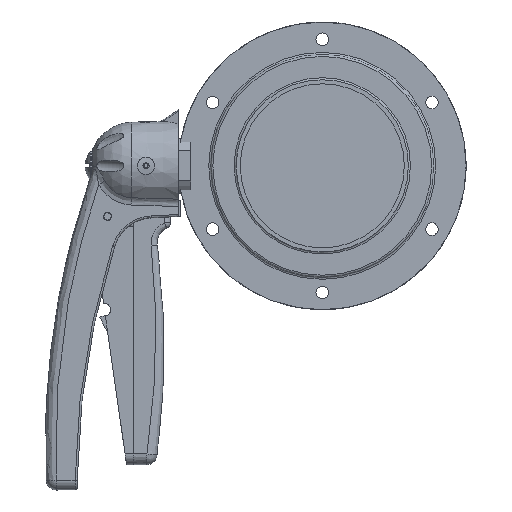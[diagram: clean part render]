
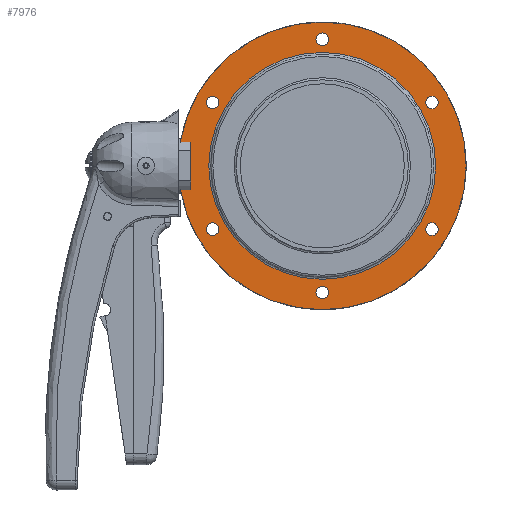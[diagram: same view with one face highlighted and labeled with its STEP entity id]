
A CAD part, left-side view. The second image highlights one B-rep face of the part: STEP entity #7976.
In plain terms, the highlighted planar face has unit normal (-1, 0, 0) as drawn and (1, 0, 0) by its records, which use the part's own axes.
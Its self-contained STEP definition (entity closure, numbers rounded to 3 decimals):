
#1995=FACE_BOUND('',#2885,.T.);
#1996=FACE_BOUND('',#2886,.T.);
#1997=FACE_BOUND('',#2887,.T.);
#1998=FACE_BOUND('',#2888,.T.);
#1999=FACE_BOUND('',#2889,.T.);
#2000=FACE_BOUND('',#2890,.T.);
#2001=FACE_BOUND('',#2891,.T.);
#2422=FACE_OUTER_BOUND('',#2884,.T.);
#2884=EDGE_LOOP('',(#7306,#7307));
#2885=EDGE_LOOP('',(#7308));
#2886=EDGE_LOOP('',(#7309));
#2887=EDGE_LOOP('',(#7310));
#2888=EDGE_LOOP('',(#7311));
#2889=EDGE_LOOP('',(#7312));
#2890=EDGE_LOOP('',(#7313));
#2891=EDGE_LOOP('',(#7314,#7315));
#3181=CIRCLE('',#8717,3.1);
#3182=CIRCLE('',#8719,3.1);
#3183=CIRCLE('',#8721,3.1);
#3184=CIRCLE('',#8723,3.1);
#3185=CIRCLE('',#8725,3.1);
#3186=CIRCLE('',#8727,3.1);
#3187=CIRCLE('',#8730,71.);
#3188=CIRCLE('',#8731,71.);
#3189=CIRCLE('',#8733,56.);
#3190=CIRCLE('',#8734,56.);
#3918=VERTEX_POINT('',#22693);
#3919=VERTEX_POINT('',#22697);
#3920=VERTEX_POINT('',#22701);
#3921=VERTEX_POINT('',#22705);
#3922=VERTEX_POINT('',#22709);
#3923=VERTEX_POINT('',#22713);
#3925=VERTEX_POINT('',#22739);
#3926=VERTEX_POINT('',#22740);
#3927=VERTEX_POINT('',#22745);
#3928=VERTEX_POINT('',#22746);
#5045=EDGE_CURVE('',#3918,#3918,#3181,.T.);
#5047=EDGE_CURVE('',#3919,#3919,#3182,.T.);
#5049=EDGE_CURVE('',#3920,#3920,#3183,.T.);
#5051=EDGE_CURVE('',#3921,#3921,#3184,.T.);
#5053=EDGE_CURVE('',#3922,#3922,#3185,.T.);
#5055=EDGE_CURVE('',#3923,#3923,#3186,.T.);
#5058=EDGE_CURVE('',#3925,#3926,#3187,.T.);
#5059=EDGE_CURVE('',#3926,#3925,#3188,.T.);
#5061=EDGE_CURVE('',#3927,#3928,#3189,.T.);
#5062=EDGE_CURVE('',#3928,#3927,#3190,.T.);
#7306=ORIENTED_EDGE('',*,*,#5058,.T.);
#7307=ORIENTED_EDGE('',*,*,#5059,.T.);
#7308=ORIENTED_EDGE('',*,*,#5045,.T.);
#7309=ORIENTED_EDGE('',*,*,#5047,.T.);
#7310=ORIENTED_EDGE('',*,*,#5049,.T.);
#7311=ORIENTED_EDGE('',*,*,#5051,.T.);
#7312=ORIENTED_EDGE('',*,*,#5053,.T.);
#7313=ORIENTED_EDGE('',*,*,#5055,.T.);
#7314=ORIENTED_EDGE('',*,*,#5061,.F.);
#7315=ORIENTED_EDGE('',*,*,#5062,.F.);
#7555=PLANE('',#8732);
#7976=ADVANCED_FACE('',(#2422,#1995,#1996,#1997,#1998,#1999,#2000,#2001),
#7555,.T.);
#8717=AXIS2_PLACEMENT_3D('',#22695,#10596,#10597);
#8719=AXIS2_PLACEMENT_3D('',#22699,#10601,#10602);
#8721=AXIS2_PLACEMENT_3D('',#22703,#10606,#10607);
#8723=AXIS2_PLACEMENT_3D('',#22707,#10611,#10612);
#8725=AXIS2_PLACEMENT_3D('',#22711,#10616,#10617);
#8727=AXIS2_PLACEMENT_3D('',#22715,#10621,#10622);
#8730=AXIS2_PLACEMENT_3D('',#22741,#10627,#10628);
#8731=AXIS2_PLACEMENT_3D('',#22742,#10629,#10630);
#8732=AXIS2_PLACEMENT_3D('',#22744,#10632,#10633);
#8733=AXIS2_PLACEMENT_3D('',#22747,#10634,#10635);
#8734=AXIS2_PLACEMENT_3D('',#22748,#10636,#10637);
#10596=DIRECTION('center_axis',(-1.,0.,0.));
#10597=DIRECTION('ref_axis',(0.,0.,1.));
#10601=DIRECTION('center_axis',(-1.,0.,0.));
#10602=DIRECTION('ref_axis',(0.,0.,1.));
#10606=DIRECTION('center_axis',(-1.,0.,0.));
#10607=DIRECTION('ref_axis',(0.,0.,1.));
#10611=DIRECTION('center_axis',(-1.,0.,0.));
#10612=DIRECTION('ref_axis',(0.,0.,1.));
#10616=DIRECTION('center_axis',(-1.,0.,0.));
#10617=DIRECTION('ref_axis',(0.,0.,1.));
#10621=DIRECTION('center_axis',(-1.,0.,0.));
#10622=DIRECTION('ref_axis',(0.,0.,1.));
#10627=DIRECTION('center_axis',(1.,0.,0.));
#10628=DIRECTION('ref_axis',(0.,0.,-1.));
#10629=DIRECTION('center_axis',(1.,0.,0.));
#10630=DIRECTION('ref_axis',(0.,0.,-1.));
#10632=DIRECTION('center_axis',(1.,0.,0.));
#10633=DIRECTION('ref_axis',(0.,0.,-1.));
#10634=DIRECTION('center_axis',(1.,0.,0.));
#10635=DIRECTION('ref_axis',(0.,0.,-1.));
#10636=DIRECTION('center_axis',(1.,0.,0.));
#10637=DIRECTION('ref_axis',(0.,0.,-1.));
#22693=CARTESIAN_POINT('',(12.,-54.127,28.15));
#22695=CARTESIAN_POINT('Origin',(12.,-54.127,31.25));
#22697=CARTESIAN_POINT('',(12.,0.,-65.6));
#22699=CARTESIAN_POINT('Origin',(12.,0.,-62.5));
#22701=CARTESIAN_POINT('',(12.,0.,59.4));
#22703=CARTESIAN_POINT('Origin',(12.,0.,62.5));
#22705=CARTESIAN_POINT('',(12.,54.127,-34.35));
#22707=CARTESIAN_POINT('Origin',(12.,54.127,-31.25));
#22709=CARTESIAN_POINT('',(12.,-54.127,-34.35));
#22711=CARTESIAN_POINT('Origin',(12.,-54.127,-31.25));
#22713=CARTESIAN_POINT('',(12.,54.127,28.15));
#22715=CARTESIAN_POINT('Origin',(12.,54.127,31.25));
#22739=CARTESIAN_POINT('',(12.,71.,0.));
#22740=CARTESIAN_POINT('',(12.,-71.,0.));
#22741=CARTESIAN_POINT('Origin',(12.,0.,0.));
#22742=CARTESIAN_POINT('Origin',(12.,0.,0.));
#22744=CARTESIAN_POINT('Origin',(12.,56.,0.));
#22745=CARTESIAN_POINT('',(12.,56.,0.));
#22746=CARTESIAN_POINT('',(12.,0.,56.));
#22747=CARTESIAN_POINT('Origin',(12.,0.,0.));
#22748=CARTESIAN_POINT('Origin',(12.,0.,0.));
